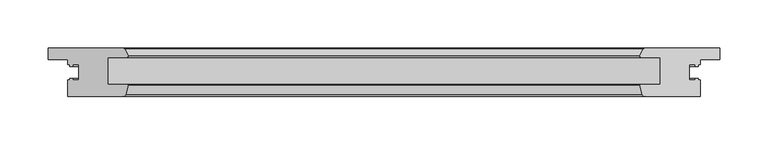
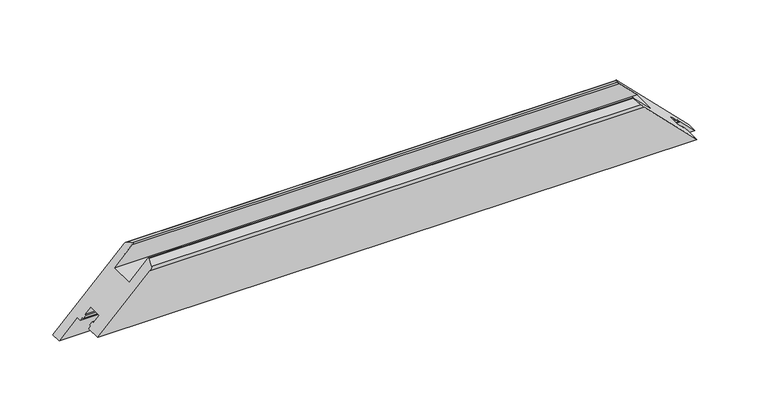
"""IFC4 building model written with IfcOpenShell, lengths in millimetres: proxy geometry, Weiku - Montante - Folha 02.2.01.017 : Weiku - Montante - Folha 02.2.01.017."""

import ifcopenshell
import ifcopenshell.guid

model = None  # the IFC model being written
_history = None  # IfcOwnerHistory: only IFC2X3 demands one
_inside = {}  # id of a spatial element -> (the spatial element, [elements in it])
_under = {}  # id of a project, library or spatial element -> (it, [spatial elements below it])
_declared = {}  # id of a project -> (the project, [libraries it declares])
_typed = {}  # id of a type object -> (the type object, [elements of that type])
_made_of = {}  # id of a material, layer set ... -> (it, [elements and type objects made of it])


def new_model(schema):
    """Start an empty IFC model of exactly this schema.

    Asked for "IFC4X3", IfcOpenShell would pick the latest addendum, in which some entities
    have other attributes; the version numbers below select the first issue.
    IFC2X3 requires an IfcOwnerHistory on every rooted entity: one is made here for all.
    """
    global model, _history
    if schema == "IFC4X3":
        model = ifcopenshell.file(schema_version=(4, 3, 0, 0))
    else:
        model = ifcopenshell.file(schema=schema)
    _inside.clear()
    _under.clear()
    _declared.clear()
    _typed.clear()
    _made_of.clear()
    _history = None
    if model.schema == "IFC2X3":
        org = make("IfcOrganization", Name="unknown")
        user = make(
            "IfcPersonAndOrganization",
            ThePerson=make("IfcPerson", FamilyName="unknown"),
            TheOrganization=org,
        )
        app = make(
            "IfcApplication",
            ApplicationDeveloper=org,
            Version="unknown",
            ApplicationFullName="unknown",
            ApplicationIdentifier="unknown",
        )
        _history = make(
            "IfcOwnerHistory",
            OwningUser=user,
            OwningApplication=app,
            ChangeAction="ADDED",
            CreationDate=0,
        )
    return model


def make(cls, **values):
    """One entity of the class cls with the attributes given. An attribute that is None is left unset."""
    return model.create_entity(
        cls, **{name: value for name, value in values.items() if value is not None}
    )


def rooted(cls, **values):
    """An entity with a GlobalId (a new one), such as an element, a storey or a relation."""
    return make(cls, GlobalId=ifcopenshell.guid.new(), OwnerHistory=_history, **values)


def si_unit(unit_type, name, prefix=None):
    """IfcSIUnit, for example si_unit("LENGTHUNIT", "METRE", prefix="MILLI")."""
    return make("IfcSIUnit", UnitType=unit_type, Prefix=prefix, Name=name)


def assignment(units):
    """IfcUnitAssignment: the units of a project."""
    return None if units is None else make("IfcUnitAssignment", Units=units)


def point(xyz):
    """IfcCartesianPoint."""
    return None if xyz is None else make("IfcCartesianPoint", Coordinates=xyz)


def direction(xyz):
    """IfcDirection."""
    return None if xyz is None else make("IfcDirection", DirectionRatios=xyz)


def frame(location, z_axis=None, x_axis=None):
    """IfcAxis2Placement3D, a coordinate frame: its origin and axes. An axis left out is left unset."""
    return make(
        "IfcAxis2Placement3D",
        Location=point(location),
        Axis=direction(z_axis),
        RefDirection=direction(x_axis),
    )


def origin():
    """The frame at (0, 0, 0) with its axes left unset."""
    return frame((0.0, 0.0, 0.0))


def place(relative_to, where):
    """IfcLocalPlacement: puts the frame where relative to a parent placement (None: the world)."""
    return make(
        "IfcLocalPlacement", PlacementRelTo=relative_to, RelativePlacement=where
    )


def context(
    kind, dimensions, precision=None, world=None, true_north=None, identifier=None
):
    """IfcGeometricRepresentationContext, for example the 3D "Model" context."""
    return make(
        "IfcGeometricRepresentationContext",
        ContextIdentifier=identifier,
        ContextType=kind,
        CoordinateSpaceDimension=dimensions,
        Precision=precision,
        WorldCoordinateSystem=world,
        TrueNorth=true_north,
    )


def project(units=None, contexts=None):
    """IfcProject with its units and contexts."""
    return rooted(
        "IfcProject",
        Name="project",
        RepresentationContexts=contexts,
        UnitsInContext=assignment(units),
    )


def spatial(cls, under=None, at=None, **own):
    """A site, building, storey or space (cls), placed at a placement, below another one or the project."""
    s = rooted(cls, ObjectPlacement=at, **own)
    if under is not None:
        _under.setdefault(under.id(), (under, []))[1].append(s)
    return s


def ellipse_curve(where, semi_axis1, semi_axis2):
    """IfcEllipse in the frame where."""
    return make(
        "IfcEllipse", Position=where, SemiAxis1=semi_axis1, SemiAxis2=semi_axis2
    )


def shape(context_of_items, identifier, shape_type, items):
    """IfcShapeRepresentation: the items that make up one representation, for example the "Body"."""
    return make(
        "IfcShapeRepresentation",
        ContextOfItems=context_of_items,
        RepresentationIdentifier=identifier,
        RepresentationType=shape_type,
        Items=items,
    )


def source(mapping_origin, context_of_items, identifier, shape_type, items):
    """IfcRepresentationMap: a shape defined once, which mapped items show again and again."""
    return make(
        "IfcRepresentationMap",
        MappingOrigin=mapping_origin,
        MappedRepresentation=shape(context_of_items, identifier, shape_type, items),
    )


def transform(
    local_origin,
    x_axis=None,
    y_axis=None,
    z_axis=None,
    scale=None,
    scale2=None,
    scale3=None,
    uniform=True,
):
    """IfcCartesianTransformationOperator3D, or its non-uniform kind. x_axis, y_axis, z_axis: its Axis1, 2, 3."""
    if uniform:
        return make(
            "IfcCartesianTransformationOperator3D",
            Axis1=direction(x_axis),
            Axis2=direction(y_axis),
            LocalOrigin=point(local_origin),
            Scale=scale,
            Axis3=direction(z_axis),
        )
    return make(
        "IfcCartesianTransformationOperator3DnonUniform",
        Axis1=direction(x_axis),
        Axis2=direction(y_axis),
        LocalOrigin=point(local_origin),
        Scale=scale,
        Axis3=direction(z_axis),
        Scale2=scale2,
        Scale3=scale3,
    )


def mapped(mapping_source, mapping_target):
    """IfcMappedItem: shows the shape of a source again, moved by a transform."""
    return make(
        "IfcMappedItem", MappingSource=mapping_source, MappingTarget=mapping_target
    )


def made_of(thing, what):
    """Note that an element or type object is made of a material, layer set ...; save() writes the relation."""
    if what is not None:
        _made_of.setdefault(what.id(), (what, []))[1].append(thing)
    return thing


def element(
    cls,
    number,
    at=None,
    inside=None,
    cuts=None,
    type_object=None,
    material=None,
    context=None,
    identifier="Body",
    shape_type=None,
    held_by="IfcProductDefinitionShape",
    body=None,
    shapes=None,
    **own,
):
    """One element of the class cls, such as IfcWall. Its Tag is "e" and its number.

    at: its placement. inside: the storey or other place that contains it. cuts: it is an
    opening in that element (IfcRelVoidsElement). A single representation is given by context,
    identifier, shape_type and body (its items); several are given by shapes. held_by: the class
    of the entity that holds the representations. save() writes the other relations.
    """
    e = rooted(cls, Tag="e%d" % number, ObjectPlacement=at, **own)
    if body is not None:
        shapes = [shape(context, identifier, shape_type, body)]
    if shapes is not None:
        e.Representation = make(held_by, Representations=shapes)
    if inside is not None:
        _inside.setdefault(inside.id(), (inside, []))[1].append(e)
    if cuts is not None:
        rooted(
            "IfcRelVoidsElement", RelatingBuildingElement=cuts, RelatedOpeningElement=e
        )
    if type_object is not None:
        _typed.setdefault(type_object.id(), (type_object, []))[1].append(e)
    return made_of(e, material)


def aggregate(whole, parts):
    """IfcRelAggregates: a whole, such as a stair, and the parts it consists of."""
    return rooted("IfcRelAggregates", RelatingObject=whole, RelatedObjects=parts)


def save(model, path):
    """Write the relations noted so far, then the file.

    IfcRelAggregates (storeys below a building ...), IfcRelContainedInSpatialStructure (elements
    in a storey), IfcRelDefinesByType, IfcRelAssociatesMaterial and IfcRelDeclares: one each for
    every whole, place, type object, material and project.
    """
    for whole, parts in _under.values():
        aggregate(whole, parts)
    for where, things in _inside.values():
        rooted(
            "IfcRelContainedInSpatialStructure",
            RelatedElements=things,
            RelatingStructure=where,
        )
    for kind, things in _typed.values():
        rooted("IfcRelDefinesByType", RelatedObjects=things, RelatingType=kind)
    for what, things in _made_of.values():
        rooted("IfcRelAssociatesMaterial", RelatedObjects=things, RelatingMaterial=what)
    for by, libraries in _declared.values():
        rooted("IfcRelDeclares", RelatingContext=by, RelatedDefinitions=libraries)
    model.write(path)


def plane_surface(at):
    """IfcPlane: the flat surface through the origin of the frame at, square to its z axis."""
    return make("IfcPlane", Position=at)


def cylinder_surface(at, radius):
    """IfcCylindricalSurface: all points at the distance radius from the z axis of the frame at."""
    return make("IfcCylindricalSurface", Position=at, Radius=radius)


def advanced_brep(points, edges, surfaces, faces):
    """IfcAdvancedBrep: a solid bounded by faces that lie on surfaces and meet in shared edges.

    An edge is (start, end): straight between two places in points (the first is 0);
    or (start, end, curve); or (start, end, curve, False) where it runs against its curve.
    A face is (place in surfaces, loops), or (place, loops, False) where it looks against
    its surface's normal. A loop lists edges by number (the first is 1), with a minus sign
    where the edge is run from its end to its start. The first loop is the outer one.
    """
    corners = [point(p) for p in points]
    vertices = [make("IfcVertexPoint", VertexGeometry=c) for c in corners]
    made = []
    for start, end, *more in edges:
        made.append(
            make(
                "IfcEdgeCurve",
                EdgeStart=vertices[start],
                EdgeEnd=vertices[end],
                EdgeGeometry=more[0] if more else make("IfcPolyline", Points=[corners[start], corners[end]]),
                SameSense=more[1] if len(more) > 1 else True,
            )
        )
    hull = []
    for where, loops, *sense in faces:
        bounds = []
        for j, loop in enumerate(loops):
            ring = [make("IfcOrientedEdge", EdgeElement=made[abs(k) - 1], Orientation=k > 0) for k in loop]
            bounds.append(
                make(
                    "IfcFaceOuterBound" if j == 0 else "IfcFaceBound",
                    Bound=make("IfcEdgeLoop", EdgeList=ring),
                    Orientation=True,
                )
            )
        hull.append(make("IfcAdvancedFace", Bounds=bounds, FaceSurface=surfaces[where], SameSense=sense[0] if sense else True))
    return make("IfcAdvancedBrep", Outer=make("IfcClosedShell", CfsFaces=hull))


def generic_models_bc50b585(model_context):
    return source(origin(), model_context, "Body", "AdvancedBrep", [
        advanced_brep(
        [(-326.75, -50.0, 20.0), (326.75, -50.0, 20.0), (269.7497332, -50.0, 77.0002668), (-269.7497332, -50.0, 77.0002668), (-346.75, 0.0, 0.0), (-268.7372264, 0.0, 78.0127736), (268.7372264, 0.0, 78.0127736), (346.75, 0.0, 0.0), (-266.8519557, -47.7764571, 79.8980443), (-264.2670371, -38.1294095, 82.4829629), (-264.75, -37.5, 82.0), (-285.25, -37.5, 61.5), (-285.25, -9.5, 61.5), (-265.4634285, -9.5, 81.2865715), (-264.3012796, -7.617411, 82.4487204), (-267.8432657, -0.5518546, 78.9067343), (-346.75, -11.5, 0.0), (-326.75, -11.5, 20.0), (-326.75, -16.9, 20.0), (-324.55, -16.9, 22.2), (-324.55, -18.9, 22.2), (-321.75, -18.9, 25.0), (-321.75, -16.9, 25.0), (-315.25, -16.9, 31.5), (-315.25, -33.1, 31.5), (-321.75, -33.1, 25.0), (-321.75, -31.1, 25.0), (-324.55, -31.1, 22.2), (-324.55, -33.1, 22.2), (-326.75, -33.1, 20.0), (326.75, -33.1, 20.0), (324.55, -33.1, 22.2), (324.55, -31.1, 22.2), (321.75, -31.1, 25.0), (321.75, -33.1, 25.0), (315.25, -33.1, 31.5), (315.25, -16.9, 31.5), (321.75, -16.9, 25.0), (321.75, -18.9, 25.0), (324.55, -18.9, 22.2), (324.55, -16.9, 22.2), (326.75, -16.9, 20.0), (326.75, -11.5, 20.0), (346.75, -11.5, 0.0), (267.8432657, -0.5518546, 78.9067343), (264.3012796, -7.617411, 82.4487204), (265.4634285, -9.5, 81.2865715), (285.25, -9.5, 61.5), (285.25, -37.5, 61.5), (264.75, -37.5, 82.0), (264.2670371, -38.1294095, 82.4829629), (266.8519557, -47.7764571, 79.8980443)],
        [
            (0, 1),
            (1, 2),
            (2, 3),
            (3, 0),
            (4, 5),
            (5, 6),
            (6, 7),
            (7, 4),
            (3, 8, ellipse_curve(frame((-269.7497332, -47.0, 77.0002668), z_axis=(-0.7071067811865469, 0.0, 0.7071067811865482), x_axis=(-0.707106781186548, 0.0, -0.7071067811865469)), 4.2426407, 3.0)),
            (8, 9),
            (9, 10, ellipse_curve(frame((-264.75, -38.0, 82.0), z_axis=(-0.7071067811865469, 0.0, 0.7071067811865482), x_axis=(-0.707106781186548, 0.0, -0.7071067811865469)), 0.7071068, 0.5)),
            (10, 11),
            (11, 12),
            (12, 13),
            (13, 14, ellipse_curve(frame((-265.4634285, -8.2, 81.2865715), z_axis=(-0.7071067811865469, 0.0, 0.7071067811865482), x_axis=(-0.707106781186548, 0.0, -0.7071067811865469)), 1.8384776, 1.3)),
            (14, 15),
            (15, 5, ellipse_curve(frame((-268.7372264, -1.0, 78.0127736), z_axis=(-0.7071067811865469, 0.0, 0.7071067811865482), x_axis=(-0.707106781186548, 0.0, -0.7071067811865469)), 1.4142136, 1.0)),
            (4, 16),
            (16, 17),
            (17, 18),
            (18, 19),
            (19, 20),
            (20, 21),
            (21, 22),
            (22, 23),
            (23, 24),
            (24, 25),
            (25, 26),
            (26, 27),
            (27, 28),
            (28, 29),
            (29, 0),
            (1, 30),
            (30, 31),
            (31, 32),
            (32, 33),
            (33, 34),
            (34, 35),
            (35, 36),
            (36, 37),
            (37, 38),
            (38, 39),
            (39, 40),
            (40, 41),
            (41, 42),
            (42, 43),
            (43, 7),
            (6, 44, ellipse_curve(frame((268.7372264, -1.0, 78.0127736), z_axis=(0.7071067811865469, 0.0, 0.7071067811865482), x_axis=(-0.707106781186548, 0.0, 0.7071067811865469)), 1.4142136, 1.0)),
            (44, 45),
            (45, 46, ellipse_curve(frame((265.4634285, -8.2, 81.2865715), z_axis=(0.7071067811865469, 0.0, 0.7071067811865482), x_axis=(-0.707106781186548, 0.0, 0.7071067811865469)), 1.8384776, 1.3)),
            (46, 47),
            (47, 48),
            (48, 49),
            (49, 50, ellipse_curve(frame((264.75, -38.0, 82.0), z_axis=(0.7071067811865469, 0.0, 0.7071067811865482), x_axis=(-0.707106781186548, 0.0, 0.7071067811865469)), 0.7071068, 0.5)),
            (50, 51),
            (51, 2, ellipse_curve(frame((269.7497332, -47.0, 77.0002668), z_axis=(0.7071067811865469, 0.0, 0.7071067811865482), x_axis=(-0.707106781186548, 0.0, 0.7071067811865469)), 4.2426407, 3.0)),
            (15, 44),
            (14, 45),
            (13, 46),
            (12, 47),
            (11, 48),
            (10, 49),
            (9, 50),
            (8, 51),
            (29, 30),
            (28, 31),
            (27, 32),
            (26, 33),
            (25, 34),
            (24, 35),
            (23, 36),
            (22, 37),
            (21, 38),
            (20, 39),
            (19, 40),
            (18, 41),
            (17, 42),
            (16, 43),
        ],
        [
            plane_surface(frame((-346.75, -50.0, 77.0002668), z_axis=(0.0, -1.0, 0.0), x_axis=(1.0, 0.0, 0.0))),
            plane_surface(frame((-346.75, 0.0, 0.0), z_axis=(0.0, 1.0, 0.0), x_axis=(1.0, 0.0, 0.0))),
            plane_surface(frame((-375.0342712, 0.0, -28.2842712), z_axis=(-0.7071067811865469, 0.0, 0.7071067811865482), x_axis=(0.0, -1.0, 0.0))),
            plane_surface(frame((256.75, 0.0, 90.0), z_axis=(0.7071067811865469, 0.0, 0.7071067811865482), x_axis=(0.0, -1.0, 0.0))),
            cylinder_surface(frame((-346.75, -1.0, 78.0127736), z_axis=(-1.0, 0.0, 0.0), x_axis=(0.0, -1.0, 0.0)), 1.0),
            plane_surface(frame((-346.75, -0.5518546, 78.9067343), z_axis=(0.0, 0.4481453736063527, 0.8939606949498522), x_axis=(1.0, 0.0, 0.0))),
            cylinder_surface(frame((-346.75, -8.2, 81.2865715), z_axis=(-1.0, 0.0, 0.0), x_axis=(0.0, -1.0, 0.0)), 1.3),
            plane_surface(frame((-346.75, -9.5, 81.2865715), z_axis=(0.0, -1.0, 0.0), x_axis=(1.0, 0.0, 0.0))),
            plane_surface(frame((-346.75, -9.5, 61.5), z_axis=(0.0, 0.0, 1.0), x_axis=(1.0, 0.0, 0.0))),
            plane_surface(frame((-346.75, -37.5, 61.5), z_axis=(0.0, 1.0, 0.0), x_axis=(1.0, 0.0, 0.0))),
            cylinder_surface(frame((-346.75, -38.0, 82.0), z_axis=(-1.0, 0.0, 0.0), x_axis=(0.0, -1.0, 0.0)), 0.5),
            plane_surface(frame((-346.75, -38.1294095, 82.4829629), z_axis=(0.0, -0.2588190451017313, 0.9659258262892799), x_axis=(1.0, 0.0, 0.0))),
            cylinder_surface(frame((-346.75, -47.0, 77.0002668), z_axis=(-1.0, 0.0, 0.0), x_axis=(0.0, -1.0, 0.0)), 3.0),
            plane_surface(frame((-346.75, -50.0, 20.0), z_axis=(0.0, 0.0, -1.0), x_axis=(1.0, 0.0, 0.0))),
            plane_surface(frame((-346.75, -33.1, 20.0), z_axis=(0.0, 1.0, 0.0), x_axis=(1.0, 0.0, 0.0))),
            plane_surface(frame((-346.75, -33.1, 22.2), z_axis=(0.0, 0.0, -1.0), x_axis=(1.0, 0.0, 0.0))),
            plane_surface(frame((-346.75, -31.1, 22.2), z_axis=(0.0, 1.0, 0.0), x_axis=(1.0, 0.0, 0.0))),
            plane_surface(frame((-346.75, -31.1, 25.0), z_axis=(0.0, 0.0, 1.0), x_axis=(1.0, 0.0, 0.0))),
            plane_surface(frame((-346.75, -33.1, 25.0), z_axis=(0.0, 1.0, 0.0), x_axis=(1.0, 0.0, 0.0))),
            plane_surface(frame((-346.75, -33.1, 31.5), z_axis=(0.0, 0.0, -1.0), x_axis=(1.0, 0.0, 0.0))),
            plane_surface(frame((-346.75, -16.9, 31.5), z_axis=(0.0, -1.0, 0.0), x_axis=(1.0, 0.0, 0.0))),
            plane_surface(frame((-346.75, -16.9, 25.0), z_axis=(0.0, 0.0, 1.0), x_axis=(1.0, 0.0, 0.0))),
            plane_surface(frame((-346.75, -18.9, 25.0), z_axis=(0.0, -1.0, 0.0), x_axis=(1.0, 0.0, 0.0))),
            plane_surface(frame((-346.75, -18.9, 22.2), z_axis=(0.0, 0.0, -1.0), x_axis=(1.0, 0.0, 0.0))),
            plane_surface(frame((-346.75, -16.9, 22.2), z_axis=(0.0, -1.0, 0.0), x_axis=(1.0, 0.0, 0.0))),
            plane_surface(frame((-346.75, -16.9, 20.0), z_axis=(0.0, 0.0, -1.0), x_axis=(1.0, 0.0, 0.0))),
            plane_surface(frame((-346.75, -11.5, 20.0), z_axis=(0.0, -1.0, 0.0), x_axis=(1.0, 0.0, 0.0))),
            plane_surface(frame((-346.75, -11.5, 0.0), z_axis=(0.0, 0.0, -1.0), x_axis=(1.0, 0.0, 0.0))),
        ],
        [
            (0, [[1, 2, 3, 4]]),
            (1, [[5, 6, 7, 8]]),
            (2, [[9, 10, 11, 12, 13, 14, 15, 16, 17, -5, 18, 19, 20, 21, 22, 23, 24, 25, 26, 27, 28, 29, 30, 31, 32, -4]]),
            (3, [[33, 34, 35, 36, 37, 38, 39, 40, 41, 42, 43, 44, 45, 46, 47, -7, 48, 49, 50, 51, 52, 53, 54, 55, 56, -2]]),
            (4, [[57, -48, -6, -17]]),
            (5, [[58, -49, -57, -16]]),
            (6, [[59, -50, -58, -15]]),
            (7, [[60, -51, -59, -14]]),
            (8, [[61, -52, -60, -13]]),
            (9, [[62, -53, -61, -12]]),
            (10, [[63, -54, -62, -11]]),
            (11, [[64, -55, -63, -10]]),
            (12, [[-3, -56, -64, -9]]),
            (13, [[65, -33, -1, -32]]),
            (14, [[66, -34, -65, -31]]),
            (15, [[67, -35, -66, -30]]),
            (16, [[68, -36, -67, -29]]),
            (17, [[69, -37, -68, -28]]),
            (18, [[70, -38, -69, -27]]),
            (19, [[71, -39, -70, -26]]),
            (20, [[72, -40, -71, -25]]),
            (21, [[73, -41, -72, -24]]),
            (22, [[74, -42, -73, -23]]),
            (23, [[75, -43, -74, -22]]),
            (24, [[76, -44, -75, -21]]),
            (25, [[77, -45, -76, -20]]),
            (26, [[-46, -77, -19, 78]]),
            (27, [[-47, -78, -18, -8]]),
        ],
    ),
    ])


if __name__ == "__main__":
    model = new_model("IFC4")
    model_context = context("Model", 3, world=origin())
    ifc_project = project(units=[si_unit("LENGTHUNIT", "METRE", prefix="MILLI")], contexts=[model_context])
    site = spatial("IfcSite", under=ifc_project)
    building = spatial("IfcBuilding", under=site)
    placement = place(None, origin())
    generic_models_shape = generic_models_bc50b585(model_context)
    element("IfcBuildingElementProxy", 1, Name="Weiku - Montante - Folha 02.2.01.017 : Weiku - Montante - Folha 02.2.01.017", ObjectType="Weiku - Montante - Folha 02.2.01.017 : Weiku - Montante - Folha 02.2.01.017", at=placement, inside=building, context=model_context, shape_type="MappedRepresentation", body=[
        mapped(generic_models_shape, transform((0.0, 0.0, 0.0), x_axis=(1.0, 0.0, 0.0), y_axis=(0.0, 1.0, 0.0), z_axis=(0.0, 0.0, 1.0))),
    ])
    save(model, "model.ifc")
